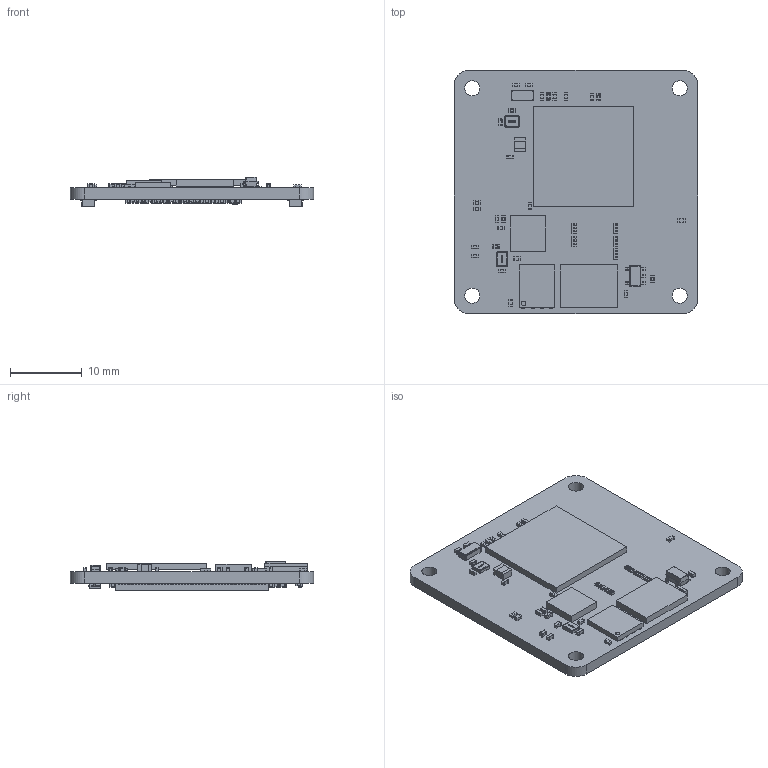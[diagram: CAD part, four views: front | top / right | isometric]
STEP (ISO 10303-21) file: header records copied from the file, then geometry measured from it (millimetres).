
FILE_DESCRIPTION(('Open CASCADE Model'),'2;1');
FILE_NAME('Open CASCADE Shape Model','2026-07-31T17:32:48',('Author'),( 'Open CASCADE'),'Open CASCADE STEP processor 7.5','Open CASCADE 7.5' ,'Unknown');
FILE_SCHEMA(('AUTOMOTIVE_DESIGN { 1 0 10303 214 1 1 1 1 }'));
Length unit declared in the file: millimetre
Products named in the file (142): PCB; Board; Open CASCADE STEP translator 7.5 1.1.1; U301; 7873496096; Extruded; U200; 7873490864; U500; 7873495088; U302; GD25Q127CWIGR; Body; ThermalPin; PinsArrayLR; U300; SOT-23-5; T200; DTC143ZETL; PinsArrayL; FilletPinR; R517; RC0402JR-0710KL; term1; term2; body; R516; R515; R514; R513; R512; R510; R509; R508; RES_RF064P_SAM; R507; R506; R505; R504; R503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
Assembly tree (234 placements, depth 4):
  PCB
    Board
      Open CASCADE STEP translator 7.5 1.1.1
    U301
      7873496096
        Extruded
    U200
      7873490864
        Extruded
    U500
      7873495088
        Extruded
    U302
      GD25Q127CWIGR
        Body
        ThermalPin
        PinsArrayLR
    U300
      SOT-23-5
    T200
      DTC143ZETL
        Body
        PinsArrayL
        FilletPinR
    R517
      RC0402JR-0710KL
        term1
        term2
        body
    R516
      RC0402JR-0710KL
        term1
        term2
        body
    R515
      RC0402JR-0710KL
        term1
        term2
        body
    R514
      RC0402JR-0710KL
        term1
        term2
        body
    R513
      RC0402JR-0710KL
        term1
        term2
        body
    R512
      RC0402JR-0710KL
        term1
        term2
        body
    R510
      RC0402JR-0710KL
        term1
        term2
        body
    R509
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Bounding box: 34 x 34 x 4.17 mm (x, y, z)
Volume: 2166.5 mm3; surface area: 4102 mm2
Topology: 342 solids, 342 shells, 7072 faces, 18015 edges, 11154 vertices
Faces by surface type: plane 4253, cylinder 2247, sphere 504, bspline 52, cone 16
Full cylindrical faces by diameter (mm): 0.1 x1, 0.625 x1, 2.1 x4
Entity records: 71320 total; most frequent: CARTESIAN_POINT 12932, ORIENTED_EDGE 11266, DIRECTION 11191, EDGE_CURVE 5633, LINE 4389, VECTOR 4389, VERTEX_POINT 3718, AXIS2_PLACEMENT_3D 3401
